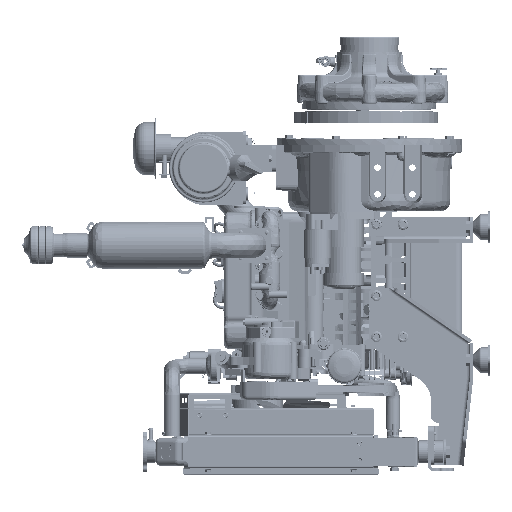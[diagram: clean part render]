
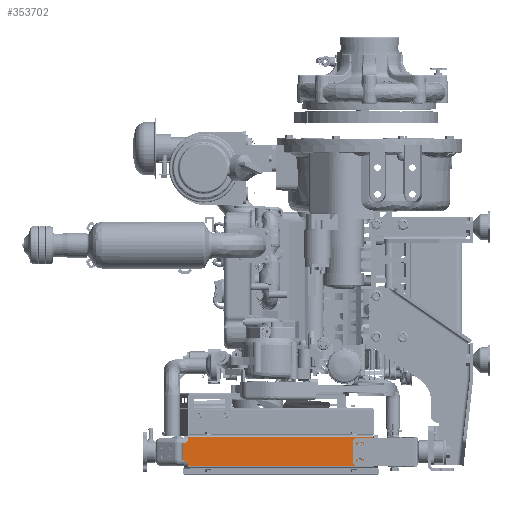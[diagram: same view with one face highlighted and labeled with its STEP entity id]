
A CAD part, left-side view. The second image highlights one B-rep face of the part: STEP entity #353702.
In plain terms, the highlighted planar face has unit normal (-1, 0, 0).
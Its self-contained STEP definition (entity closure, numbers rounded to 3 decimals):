
#1365 = VECTOR ( 'NONE', #573572, 1000. ) ;
#6207 = VERTEX_POINT ( 'NONE', #363790 ) ;
#6597 = ORIENTED_EDGE ( 'NONE', *, *, #87727, .T. ) ;
#14115 = CIRCLE ( 'NONE', #94140, 4.37 ) ;
#17960 = LINE ( 'NONE', #413009, #1365 ) ;
#21750 = CIRCLE ( 'NONE', #128850, 10. ) ;
#25263 = DIRECTION ( 'NONE',  ( 1., 0., 0. ) ) ;
#30915 = DIRECTION ( 'NONE',  ( 0., 0., 1. ) ) ;
#37127 = AXIS2_PLACEMENT_3D ( 'NONE', #343160, #25263, #396578 ) ;
#38316 = VECTOR ( 'NONE', #653035, 1000. ) ;
#51181 = CARTESIAN_POINT ( 'NONE',  ( -210.915, 17.6, -305.39 ) ) ;
#55037 = LINE ( 'NONE', #334467, #38316 ) ;
#66186 = CARTESIAN_POINT ( 'NONE',  ( -210.915, 357.53, -273.123 ) ) ;
#72509 = CARTESIAN_POINT ( 'NONE',  ( -210.915, 357.8, -315.654 ) ) ;
#73773 = DIRECTION ( 'NONE',  ( 1., 0., 0. ) ) ;
#75062 = DIRECTION ( 'NONE',  ( 0., 0., -1. ) ) ;
#76734 = VERTEX_POINT ( 'NONE', #501603 ) ;
#87727 = EDGE_CURVE ( 'NONE', #275871, #534566, #17960, .T. ) ;
#91971 = ORIENTED_EDGE ( 'NONE', *, *, #571643, .T. ) ;
#94140 = AXIS2_PLACEMENT_3D ( 'NONE', #51181, #422522, #104509 ) ;
#96014 = DIRECTION ( 'NONE',  ( 1., 0., 0. ) ) ;
#98222 = CARTESIAN_POINT ( 'NONE',  ( -210.915, 347.8, -267.223 ) ) ;
#100132 = VERTEX_POINT ( 'NONE', #528229 ) ;
#102934 = EDGE_CURVE ( 'NONE', #383141, #439878, #568372, .T. ) ;
#104509 = DIRECTION ( 'NONE',  ( 0., 0., 1. ) ) ;
#106963 = ORIENTED_EDGE ( 'NONE', *, *, #355816, .T. ) ;
#107046 = ORIENTED_EDGE ( 'NONE', *, *, #170503, .T. ) ;
#114715 = DIRECTION ( 'NONE',  ( 1., 0., 0. ) ) ;
#119575 = EDGE_CURVE ( 'NONE', #390710, #6207, #557409, .T. ) ;
#125872 = DIRECTION ( 'NONE',  ( 0., 0., 1. ) ) ;
#128850 = AXIS2_PLACEMENT_3D ( 'NONE', #278382, #650371, #331830 ) ;
#131177 = CIRCLE ( 'NONE', #315444, 4.37 ) ;
#135795 = VECTOR ( 'NONE', #416212, 1000. ) ;
#137043 = CARTESIAN_POINT ( 'NONE',  ( -210.915, 347.8, -317.46 ) ) ;
#142007 = VERTEX_POINT ( 'NONE', #256422 ) ;
#145778 = CARTESIAN_POINT ( 'NONE',  ( -210.915, -17.53, -273.123 ) ) ;
#152935 = FACE_BOUND ( 'NONE', #638809, .T. ) ;
#157500 = AXIS2_PLACEMENT_3D ( 'NONE', #137043, #508579, #190436 ) ;
#163466 = AXIS2_PLACEMENT_3D ( 'NONE', #72509, #443948, #125872 ) ;
#164868 = ORIENTED_EDGE ( 'NONE', *, *, #629697, .T. ) ;
#169923 = VECTOR ( 'NONE', #595836, 1000. ) ;
#170503 = EDGE_CURVE ( 'NONE', #100132, #590306, #21750, .T. ) ;
#190436 = DIRECTION ( 'NONE',  ( 0., 0., 1. ) ) ;
#192582 = VERTEX_POINT ( 'NONE', #312974 ) ;
#193653 = ORIENTED_EDGE ( 'NONE', *, *, #376686, .T. ) ;
#195082 = VERTEX_POINT ( 'NONE', #421033 ) ;
#205547 = VERTEX_POINT ( 'NONE', #278461 ) ;
#206214 = CIRCLE ( 'NONE', #527169, 4.37 ) ;
#213322 = EDGE_LOOP ( 'NONE', ( #107046, #321438, #491969, #655063, #413800, #6597, #559407, #253985, #480361, #285430, #400468, #164868 ) ) ;
#223914 = CARTESIAN_POINT ( 'NONE',  ( -210.915, -7.8, -267.223 ) ) ;
#253062 = CARTESIAN_POINT ( 'NONE',  ( -210.915, 17.6, -305.39 ) ) ;
#253266 = CARTESIAN_POINT ( 'NONE',  ( -210.915, -7.8, -317.46 ) ) ;
#253985 = ORIENTED_EDGE ( 'NONE', *, *, #259897, .T. ) ;
#256422 = CARTESIAN_POINT ( 'NONE',  ( -210.915, 17.6, -301.02 ) ) ;
#256783 = LINE ( 'NONE', #395301, #539441 ) ;
#259897 = EDGE_CURVE ( 'NONE', #641243, #383141, #55037, .T. ) ;
#263109 = DIRECTION ( 'NONE',  ( 0., 1., 0. ) ) ;
#275871 = VERTEX_POINT ( 'NONE', #253266 ) ;
#278382 = CARTESIAN_POINT ( 'NONE',  ( -210.915, 357.8, -263.126 ) ) ;
#278461 = CARTESIAN_POINT ( 'NONE',  ( -210.915, 17.6, -277.76 ) ) ;
#285430 = ORIENTED_EDGE ( 'NONE', *, *, #592182, .F. ) ;
#292960 = CARTESIAN_POINT ( 'NONE',  ( -210.915, 347.8, -317.46 ) ) ;
#306336 = DIRECTION ( 'NONE',  ( 0., 0., 1. ) ) ;
#312974 = CARTESIAN_POINT ( 'NONE',  ( -210.915, -7.8, -261.32 ) ) ;
#315444 = AXIS2_PLACEMENT_3D ( 'NONE', #253062, #624956, #306336 ) ;
#321438 = ORIENTED_EDGE ( 'NONE', *, *, #462799, .T. ) ;
#331830 = DIRECTION ( 'NONE',  ( 0., 0., 1. ) ) ;
#334467 = CARTESIAN_POINT ( 'NONE',  ( -210.915, -17.53, -317.46 ) ) ;
#343160 = CARTESIAN_POINT ( 'NONE',  ( -210.915, -17.8, -315.654 ) ) ;
#351427 = CARTESIAN_POINT ( 'NONE',  ( -210.915, 347.8, -317.46 ) ) ;
#353702 = ADVANCED_FACE ( 'NONE', ( #435349, #152935, #451990 ), #452795, .T. ) ;
#354362 = CARTESIAN_POINT ( 'NONE',  ( -210.915, -7.8, -263.126 ) ) ;
#355816 = EDGE_CURVE ( 'NONE', #472742, #142007, #14115, .T. ) ;
#363790 = CARTESIAN_POINT ( 'NONE',  ( -210.915, 347.8, -315.654 ) ) ;
#369835 = CARTESIAN_POINT ( 'NONE',  ( -210.915, 347.8, -261.32 ) ) ;
#372354 = CARTESIAN_POINT ( 'NONE',  ( -210.915, -17.53, -305.657 ) ) ;
#376686 = EDGE_CURVE ( 'NONE', #205547, #195082, #659464, .T. ) ;
#383141 = VERTEX_POINT ( 'NONE', #145778 ) ;
#383172 = CARTESIAN_POINT ( 'NONE',  ( -210.915, 17.6, -309.76 ) ) ;
#386060 = EDGE_CURVE ( 'NONE', #195082, #205547, #206214, .T. ) ;
#390710 = VERTEX_POINT ( 'NONE', #473051 ) ;
#391732 = CARTESIAN_POINT ( 'NONE',  ( -210.915, -17.8, -263.126 ) ) ;
#395301 = CARTESIAN_POINT ( 'NONE',  ( -210.915, 357.53, -317.46 ) ) ;
#396578 = DIRECTION ( 'NONE',  ( 0., 0., 1. ) ) ;
#400468 = ORIENTED_EDGE ( 'NONE', *, *, #587067, .T. ) ;
#401454 = LINE ( 'NONE', #98222, #135795 ) ;
#413009 = CARTESIAN_POINT ( 'NONE',  ( -210.915, -7.8, -311.557 ) ) ;
#413800 = ORIENTED_EDGE ( 'NONE', *, *, #431546, .T. ) ;
#414057 = CARTESIAN_POINT ( 'NONE',  ( -210.915, 17.6, -273.39 ) ) ;
#416212 = DIRECTION ( 'NONE',  ( 0., 0., -1. ) ) ;
#421033 = CARTESIAN_POINT ( 'NONE',  ( -210.915, 17.6, -269.02 ) ) ;
#422522 = DIRECTION ( 'NONE',  ( 1., 0., 0. ) ) ;
#431546 = EDGE_CURVE ( 'NONE', #551989, #275871, #583292, .T. ) ;
#432744 = CARTESIAN_POINT ( 'NONE',  ( -210.915, 17.6, -273.39 ) ) ;
#432978 = EDGE_CURVE ( 'NONE', #551989, #6207, #497087, .T. ) ;
#435349 = FACE_BOUND ( 'NONE', #586779, .T. ) ;
#439878 = VERTEX_POINT ( 'NONE', #354362 ) ;
#443948 = DIRECTION ( 'NONE',  ( 1., 0., 0. ) ) ;
#445218 = DIRECTION ( 'NONE',  ( 0., 0., 1. ) ) ;
#451990 = FACE_OUTER_BOUND ( 'NONE', #213322, .T. ) ;
#452424 = LINE ( 'NONE', #223914, #169923 ) ;
#452795 = PLANE ( 'NONE',  #157500 ) ;
#462799 = EDGE_CURVE ( 'NONE', #590306, #390710, #256783, .T. ) ;
#467618 = DIRECTION ( 'NONE',  ( 0., 0., 1. ) ) ;
#472742 = VERTEX_POINT ( 'NONE', #383172 ) ;
#473051 = CARTESIAN_POINT ( 'NONE',  ( -210.915, 357.53, -305.657 ) ) ;
#480361 = ORIENTED_EDGE ( 'NONE', *, *, #102934, .T. ) ;
#486245 = DIRECTION ( 'NONE',  ( 0., 0., 1. ) ) ;
#491969 = ORIENTED_EDGE ( 'NONE', *, *, #119575, .T. ) ;
#493959 = AXIS2_PLACEMENT_3D ( 'NONE', #432744, #114715, #486245 ) ;
#497087 = LINE ( 'NONE', #558195, #622010 ) ;
#499108 = ORIENTED_EDGE ( 'NONE', *, *, #386060, .T. ) ;
#501603 = CARTESIAN_POINT ( 'NONE',  ( -210.915, 347.8, -261.32 ) ) ;
#502482 = LINE ( 'NONE', #369835, #627333 ) ;
#508579 = DIRECTION ( 'NONE',  ( -1., 0., 0. ) ) ;
#513861 = CIRCLE ( 'NONE', #37127, 10. ) ;
#527169 = AXIS2_PLACEMENT_3D ( 'NONE', #414057, #96014, #467618 ) ;
#528229 = CARTESIAN_POINT ( 'NONE',  ( -210.915, 347.8, -263.126 ) ) ;
#534566 = VERTEX_POINT ( 'NONE', #687565 ) ;
#539441 = VECTOR ( 'NONE', #75062, 1000. ) ;
#540065 = AXIS2_PLACEMENT_3D ( 'NONE', #391732, #73773, #445218 ) ;
#546435 = EDGE_CURVE ( 'NONE', #534566, #641243, #513861, .T. ) ;
#551989 = VERTEX_POINT ( 'NONE', #351427 ) ;
#557409 = CIRCLE ( 'NONE', #163466, 10. ) ;
#558195 = CARTESIAN_POINT ( 'NONE',  ( -210.915, 347.8, -311.557 ) ) ;
#559407 = ORIENTED_EDGE ( 'NONE', *, *, #546435, .T. ) ;
#566564 = VECTOR ( 'NONE', #611616, 1000. ) ;
#568372 = CIRCLE ( 'NONE', #540065, 10. ) ;
#571643 = EDGE_CURVE ( 'NONE', #142007, #472742, #131177, .T. ) ;
#573572 = DIRECTION ( 'NONE',  ( 0., 0., 1. ) ) ;
#583292 = LINE ( 'NONE', #292960, #566564 ) ;
#586779 = EDGE_LOOP ( 'NONE', ( #91971, #106963 ) ) ;
#587067 = EDGE_CURVE ( 'NONE', #192582, #76734, #502482, .T. ) ;
#590306 = VERTEX_POINT ( 'NONE', #66186 ) ;
#592182 = EDGE_CURVE ( 'NONE', #192582, #439878, #452424, .T. ) ;
#595836 = DIRECTION ( 'NONE',  ( 0., 0., -1. ) ) ;
#611616 = DIRECTION ( 'NONE',  ( 0., -1., 0. ) ) ;
#622010 = VECTOR ( 'NONE', #30915, 1000. ) ;
#624956 = DIRECTION ( 'NONE',  ( 1., 0., 0. ) ) ;
#627333 = VECTOR ( 'NONE', #263109, 1000. ) ;
#629697 = EDGE_CURVE ( 'NONE', #76734, #100132, #401454, .T. ) ;
#638809 = EDGE_LOOP ( 'NONE', ( #499108, #193653 ) ) ;
#641243 = VERTEX_POINT ( 'NONE', #372354 ) ;
#650371 = DIRECTION ( 'NONE',  ( 1., 0., 0. ) ) ;
#653035 = DIRECTION ( 'NONE',  ( 0., 0., 1. ) ) ;
#655063 = ORIENTED_EDGE ( 'NONE', *, *, #432978, .F. ) ;
#659464 = CIRCLE ( 'NONE', #493959, 4.37 ) ;
#687565 = CARTESIAN_POINT ( 'NONE',  ( -210.915, -7.8, -315.654 ) ) ;
